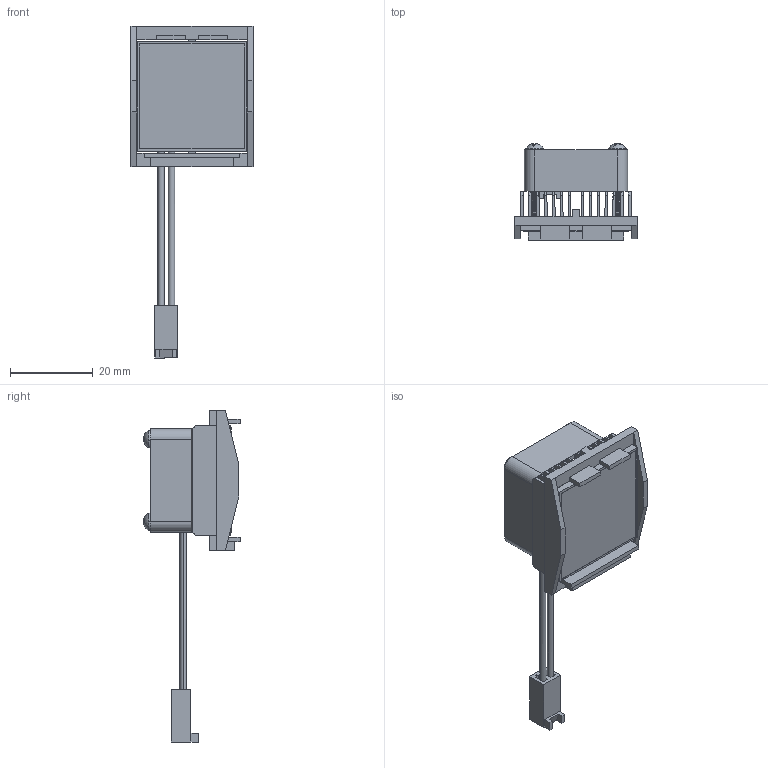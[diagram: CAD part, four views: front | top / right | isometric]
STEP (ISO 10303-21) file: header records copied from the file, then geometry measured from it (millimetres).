
FILE_DESCRIPTION (( 'STEP AP214' ), '1' );
FILE_NAME ('FJ27-1.7+Y.STEP', '2023-03-22T00:02:00', ( '' ), ( '' ), 'SwSTEP 2.0', 'SolidWorks 2020', '' );
FILE_SCHEMA (( 'AUTOMOTIVE_DESIGN' ));
Length unit declared in the file: millimetre
Products named in the file (1): FJ27-1.7+Y
Bounding box: 29.6 x 23.3 x 80.35 mm (x, y, z)
Volume: 7970.2 mm3; surface area: 15745.1 mm2
Topology: 8 solids, 8 shells, 855 faces, 2490 edges, 1656 vertices
Faces by surface type: cylinder 370, plane 307, bspline 122, cone 40, sphere 8, torus 8
Entity records: 63335 total; most frequent: CARTESIAN_POINT 34092, ORIENTED_EDGE 4980, DIRECTION 3297, EDGE_CURVE 2490, VERTEX_POINT 1656, VECTOR 1209, LINE 1209, AXIS2_PLACEMENT_3D 1044
